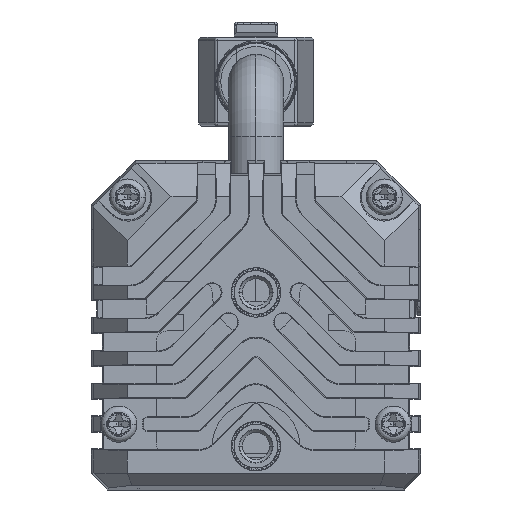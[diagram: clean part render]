
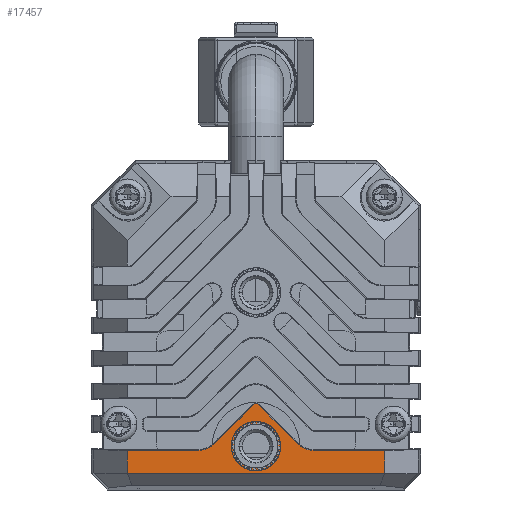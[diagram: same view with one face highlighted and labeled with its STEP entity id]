
A CAD part, left-side view. The second image highlights one B-rep face of the part: STEP entity #17457.
In plain terms, the highlighted planar face has unit normal (-1, 0, 0) as drawn and (1, 0, 0) by its records, which use the part's own axes.
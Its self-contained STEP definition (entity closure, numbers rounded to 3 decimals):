
#10365=CARTESIAN_POINT('',(5.,0.,7.527));
#10366=DIRECTION('',(1.,0.,0.));
#10367=DIRECTION('',(0.,0.707,0.707));
#10368=AXIS2_PLACEMENT_3D('',#10365,#10366,#10367);
#10374=DIRECTION('',(0.,0.707,-0.707));
#10375=VECTOR('',#10374,5.013);
#10376=CARTESIAN_POINT('',(5.,0.242,7.769));
#10377=LINE('',#10376,#10375);
#10381=DIRECTION('',(0.,-1.,0.));
#10382=VECTOR('',#10381,6.438);
#10383=CARTESIAN_POINT('',(5.,11.75,3.593));
#10384=LINE('',#10383,#10382);
#10388=DIRECTION('',(0.,0.,1.));
#10389=VECTOR('',#10388,2.093);
#10390=CARTESIAN_POINT('',(5.,11.75,1.5));
#10391=LINE('',#10390,#10389);
#10395=DIRECTION('',(0.,1.,0.));
#10396=VECTOR('',#10395,23.5);
#10397=CARTESIAN_POINT('',(5.,-11.75,1.5));
#10398=LINE('',#10397,#10396);
#10402=DIRECTION('',(0.,0.,-1.));
#10403=VECTOR('',#10402,2.093);
#10404=CARTESIAN_POINT('',(5.,-11.75,3.593));
#10405=LINE('',#10404,#10403);
#10409=DIRECTION('',(0.,1.,0.));
#10410=VECTOR('',#10409,6.438);
#10411=CARTESIAN_POINT('',(5.,-11.75,3.593));
#10412=LINE('',#10411,#10410);
#10416=DIRECTION('',(0.,0.707,0.707));
#10417=VECTOR('',#10416,5.013);
#10418=CARTESIAN_POINT('',(5.,-3.787,4.225));
#10419=LINE('',#10418,#10417);
#10423=CARTESIAN_POINT('',(5.,0.,4.));
#10424=DIRECTION('',(1.,0.,0.));
#10425=DIRECTION('',(0.,1.,0.));
#10426=AXIS2_PLACEMENT_3D('',#10423,#10424,#10425);
#10431=CARTESIAN_POINT('',(5.,0.,4.));
#10432=DIRECTION('',(1.,0.,0.));
#10433=DIRECTION('',(0.,-1.,0.));
#10434=AXIS2_PLACEMENT_3D('',#10431,#10432,#10433);
#11160=CARTESIAN_POINT('',(5.,-5.312,5.75));
#11161=DIRECTION('',(-1.,0.,0.));
#11162=DIRECTION('',(0.,0.707,-0.707));
#11163=AXIS2_PLACEMENT_3D('',#11160,#11161,#11162);
#14679=CARTESIAN_POINT('',(5.,5.312,5.75));
#14680=DIRECTION('',(-1.,0.,0.));
#14681=DIRECTION('',(0.,0.,-1.));
#14682=AXIS2_PLACEMENT_3D('',#14679,#14680,#14681);
#16352=CARTESIAN_POINT('',(5.,2.,4.));
#16353=CARTESIAN_POINT('',(5.,-2.,4.));
#16354=VERTEX_POINT('',#16352);
#16355=VERTEX_POINT('',#16353);
#16356=CARTESIAN_POINT('',(5.,-11.75,1.5));
#16357=CARTESIAN_POINT('',(5.,11.75,1.5));
#16358=VERTEX_POINT('',#16356);
#16359=VERTEX_POINT('',#16357);
#16458=CARTESIAN_POINT('',(5.,5.312,3.593));
#16459=VERTEX_POINT('',#16458);
#16460=CARTESIAN_POINT('',(5.,3.787,4.225));
#16461=VERTEX_POINT('',#16460);
#16466=CARTESIAN_POINT('',(5.,-3.787,4.225));
#16467=VERTEX_POINT('',#16466);
#16468=CARTESIAN_POINT('',(5.,-5.312,3.593));
#16469=VERTEX_POINT('',#16468);
#16546=CARTESIAN_POINT('',(5.,-11.75,3.593));
#16547=VERTEX_POINT('',#16546);
#16548=CARTESIAN_POINT('',(5.,11.75,3.593));
#16549=VERTEX_POINT('',#16548);
#16566=CARTESIAN_POINT('',(5.,0.242,7.769));
#16567=CARTESIAN_POINT('',(5.,-0.242,7.769));
#16568=VERTEX_POINT('',#16566);
#16569=VERTEX_POINT('',#16567);
#17424=CARTESIAN_POINT('',(5.,0.,0.));
#17425=DIRECTION('',(1.,0.,0.));
#17426=DIRECTION('',(0.,1.,0.));
#17427=AXIS2_PLACEMENT_3D('',#17424,#17425,#17426);
#17428=PLANE('',#17427);
#17430=ORIENTED_EDGE('',*,*,#17429,.F.);
#17432=ORIENTED_EDGE('',*,*,#17431,.T.);
#17434=ORIENTED_EDGE('',*,*,#17433,.F.);
#17436=ORIENTED_EDGE('',*,*,#17435,.F.);
#17438=ORIENTED_EDGE('',*,*,#17437,.F.);
#17440=ORIENTED_EDGE('',*,*,#17439,.F.);
#17442=ORIENTED_EDGE('',*,*,#17441,.F.);
#17444=ORIENTED_EDGE('',*,*,#17443,.T.);
#17446=ORIENTED_EDGE('',*,*,#17445,.F.);
#17448=ORIENTED_EDGE('',*,*,#17447,.T.);
#17449=EDGE_LOOP('',(#17430,#17432,#17434,#17436,#17438,#17440,#17442,#17444,
#17446,#17448));
#17450=FACE_OUTER_BOUND('',#17449,.F.);
#17452=ORIENTED_EDGE('',*,*,#17451,.T.);
#17454=ORIENTED_EDGE('',*,*,#17453,.T.);
#17455=EDGE_LOOP('',(#17452,#17454));
#17456=FACE_BOUND('',#17455,.F.);
#10369=CIRCLE('',#10368,0.343);
#10427=CIRCLE('',#10426,2.);
#10435=CIRCLE('',#10434,2.);
#11164=CIRCLE('',#11163,2.157);
#14683=CIRCLE('',#14682,2.157);
#17429=EDGE_CURVE('',#16568,#16569,#10369,.T.);
#17431=EDGE_CURVE('',#16568,#16461,#10377,.T.);
#17433=EDGE_CURVE('',#16459,#16461,#14683,.T.);
#17435=EDGE_CURVE('',#16549,#16459,#10384,.T.);
#17437=EDGE_CURVE('',#16359,#16549,#10391,.T.);
#17439=EDGE_CURVE('',#16358,#16359,#10398,.T.);
#17441=EDGE_CURVE('',#16547,#16358,#10405,.T.);
#17443=EDGE_CURVE('',#16547,#16469,#10412,.T.);
#17445=EDGE_CURVE('',#16467,#16469,#11164,.T.);
#17447=EDGE_CURVE('',#16467,#16569,#10419,.T.);
#17451=EDGE_CURVE('',#16354,#16355,#10427,.T.);
#17453=EDGE_CURVE('',#16355,#16354,#10435,.T.);
#17457=ADVANCED_FACE('',(#17450,#17456),#17428,.T.);
